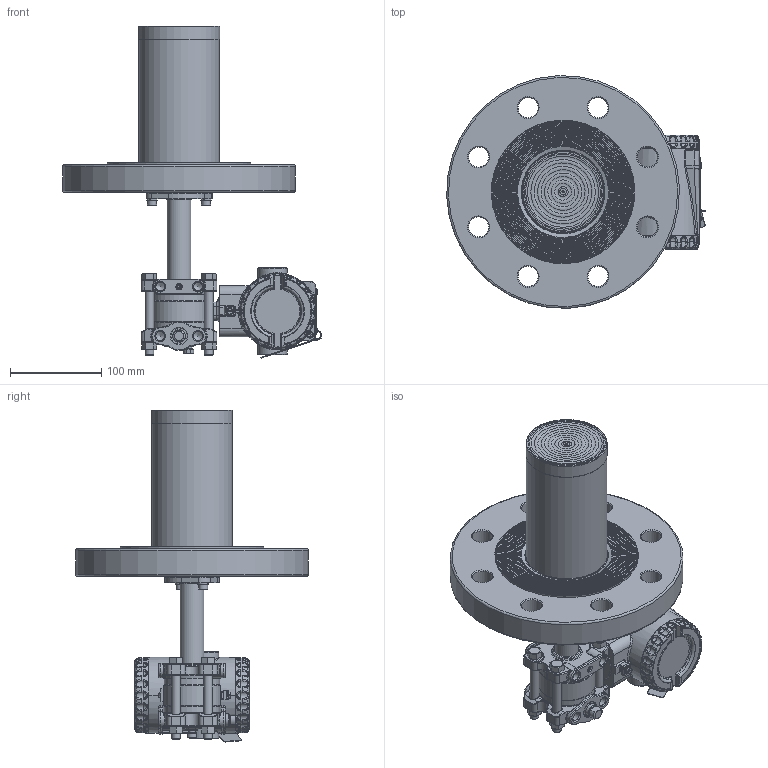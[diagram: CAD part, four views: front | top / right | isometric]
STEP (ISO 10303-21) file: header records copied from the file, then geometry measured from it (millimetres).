
FILE_DESCRIPTION(/* description */ (''),/* implementation_level */ '2;1');
FILE_NAME(/* name */ 'F:\Area\Desenvolvimento_2\Projects\Sensor\projetos\LD400-3d\dimensionais 3D clientes\LD400L\LD400L 4-300 RF ext 150 ref 1-4NPT purga acima.stp',/* time_stamp */ '2023-02-23T16:52:08-03:00',/* author */ ('inventor02'),/* organization */ (''),/* preprocessor_version */ 'ST-DEVELOPER v17',/* originating_system */ 'Autodesk Inventor 2019',/* authorisation */ '');
FILE_SCHEMA (('CONFIG_CONTROL_DESIGN'));
Products named in the file (41): LD30XL 4-300 RF ext 150 ref 1-4NPT purga acima; 204-0301-L-4 300 RF ext 150 purga acima; nivel fx3 com baixa diferencial 1-4NPT purga acima; involucro fx0-3 apos a usinagem final; flange diferencial std purga; 101-C-7484-01 flange selo nivel VR; 201-A-0504-tubo união teste 1; bujao 1-4NPT; Sangria; Porca 3-8 x 16 UNC; Paraf. 3-8 x 16 UNC; adaptação tubo x flanges 1-1-2 a 4pol; 101-B-0161-anel cortado do tubo - teste1; 101-B-0162-flange fixação tubo; ANSI B18.3.1M - M6x1 x 16; DIN 127 - A 6; flange 4 300 ext 150; 101-C-0123-09; 096-B-0212-15; 101-B-7702-02 ext 4-150; Carcaça 400 com tampas e plaqueta sem letras; 101-D-0845-05 carcaça LD400 sem letras; 101-B-3614-03-tampa 400 sem letras; Tampa visor 400 montada sem letras; 101-B-3612-05 tampa visor 400 sem letras; 101-A-6107; oring 2034; 00034775-0; WHW_250; DIN 915 - M6 x 10; Chapa aterramento externo; 201-A-1771-02 inserto terra recartilhado; AS 1969 - ST4,2; ISO 1207 - M4 x 8; ANSI B18.3.1M - M4x0,7 x 8; Subconjunto plaqueta 400; plaqueta 400 em branco; Parafuso da Plaqueta; Rebite da Plaqueta; 096-A-0169-03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
Assembly tree (50 placements, depth 4):
  LD30XL 4-300 RF ext 150 ref 1-4NPT purga acima
    204-0301-L-4 300 RF ext 150 purga acima
      nivel fx3 com baixa diferencial 1-4NPT purga acima
        involucro fx0-3 apos a usinagem final
        flange diferencial std purga
        101-C-7484-01 flange selo nivel VR
        201-A-0504-tubo união teste 1
        DIN 915 - M6 x 10
        bujao 1-4NPT
        Sangria
        Porca 3-8 x 16 UNC  x4
        Paraf. 3-8 x 16 UNC  x4
      adaptação tubo x flanges 1-1-2 a 4pol
        101-B-0161-anel cortado do tubo - teste1
        101-B-0162-flange fixação tubo
        ANSI B18.3.1M - M6x1 x 16  x2
        DIN 127 - A 6  x2
      flange 4 300 ext 150
        101-C-0123-09
        096-B-0212-15
        101-B-7702-02 ext 4-150
    Carcaça 400 com tampas e plaqueta sem letras
      101-D-0845-05 carcaça LD400 sem letras
      101-B-3614-03-tampa 400 sem letras
      Tampa visor 400 montada sem letras
        101-B-3612-05 tampa visor 400 sem letras
        101-A-6107
        oring 2034
        00034775-0
        WHW_250
      DIN 915 - M6 x 10
      Chapa aterramento externo
      201-A-1771-02 inserto terra recartilhado
      AS 1969 - ST4,2
      ISO 1207 - M4 x 8
      ANSI B18.3.1M - M4x0,7 x 8  x2
      Subconjunto plaqueta 400
        plaqueta 400 em branco
        Parafuso da Plaqueta
        Rebite da Plaqueta
        096-A-0169-03
        101-A-0502-01
Bounding box: 283.12 x 254.76 x 363.62 mm (x, y, z)
Volume: 2385085.6 mm3; surface area: 488724.2 mm2
Topology: 43 solids, 43 shells, 2834 faces, 6835 edges, 4112 vertices
Faces by surface type: plane 751, cylinder 668, bspline 604, torus 505, cone 230, sphere 76
Full cylindrical faces by diameter (mm): 2 x4, 2.1 x1, 2.2 x1, 2.459 x3, 2.5 x1, 2.7 x1, 2.8 x1, 3 x4, 3.242 x3, 3.5 x1, 3.571 x1, 4 x5, 4.3 x2, 4.4 x1, 4.917 x4, 5 x1, 5.5 x3, 6 x6, 6.1 x2, 6.2 x1, 6.647 x1, 7 x5, 7.6 x2, 7.798 x4, 8 x1, 9.525 x4, 9.728 x6, 10 x2, 10.5 x8, 10.719 x2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
Entity records: 100423 total; most frequent: CARTESIAN_POINT 37343, DIRECTION 13070, ORIENTED_EDGE 12910, EDGE_CURVE 6455, AXIS2_PLACEMENT_3D 5618, VERTEX_POINT 3918, CIRCLE 3271, EDGE_LOOP 2907
